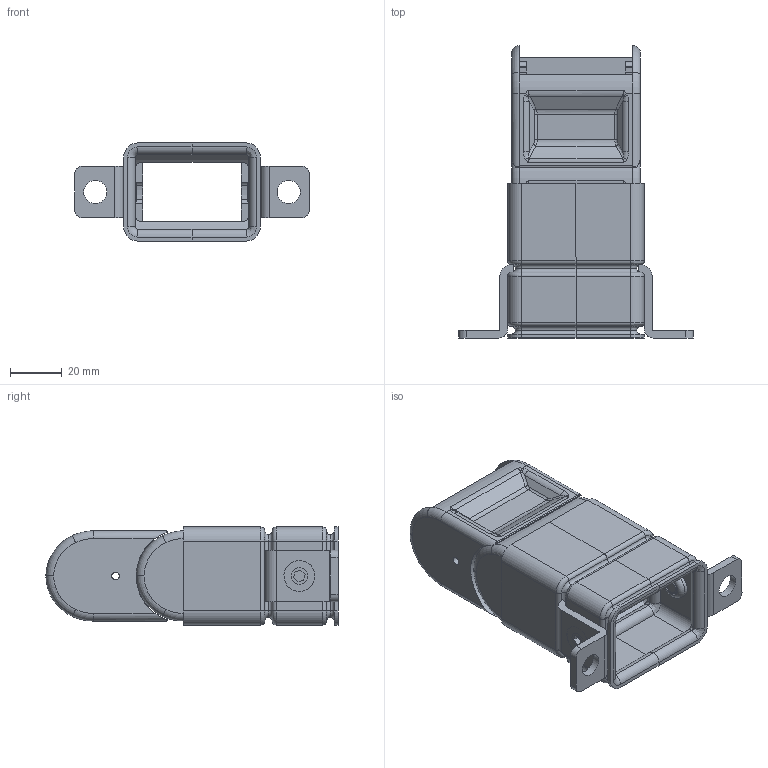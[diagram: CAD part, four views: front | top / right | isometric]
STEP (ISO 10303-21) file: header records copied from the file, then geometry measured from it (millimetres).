
FILE_DESCRIPTION((''),'2;1');
FILE_NAME('E:\Uebbing\temp\PFR 122\PFR 122 Anschluss B.stp','2010-08-16T11:15:28',('UebbingXP'),(''),'Autodesk Inventor 10','Autodesk Inventor 10','');
FILE_SCHEMA(('AUTOMOTIVE_DESIGN { 1 0 10303 214 1 1 1 1 }'));
Length unit declared in the file: millimetre
Products named in the file (6): PFR 122 Anschluss B; PFR 122 H Anschluss B; Rändelmutter M6 flach; Anschlusswinkel; Imbusschraube M6x5 Senkkopf; PFR122-75 gesägt 
Assembly tree (9 placements, depth 2):
  PFR 122 Anschluss B
    PFR 122 H Anschluss B
    Rändelmutter M6 flach  x2
    Anschlusswinkel  x2
    Imbusschraube M6x5 Senkkopf  x2
    PFR122-75 gesägt   x2
Bounding box: 91 x 113.3 x 38 mm (x, y, z)
Volume: 60964.6 mm3; surface area: 55233.6 mm2
Topology: 9 solids, 9 shells, 658 faces, 1578 edges, 926 vertices
Faces by surface type: bspline 291, plane 164, cylinder 163, torus 32, cone 8
Full cylindrical faces by diameter (mm): 6 x4, 6.5 x2, 9 x4, 9.2 x2, 11 x2, 12 x2
Entity records: 18128 total; most frequent: CARTESIAN_POINT 8504, ORIENTED_EDGE 2024, DIRECTION 1872, EDGE_CURVE 1012, AXIS2_PLACEMENT_3D 675, VERTEX_POINT 596, VECTOR 522, LINE 522
